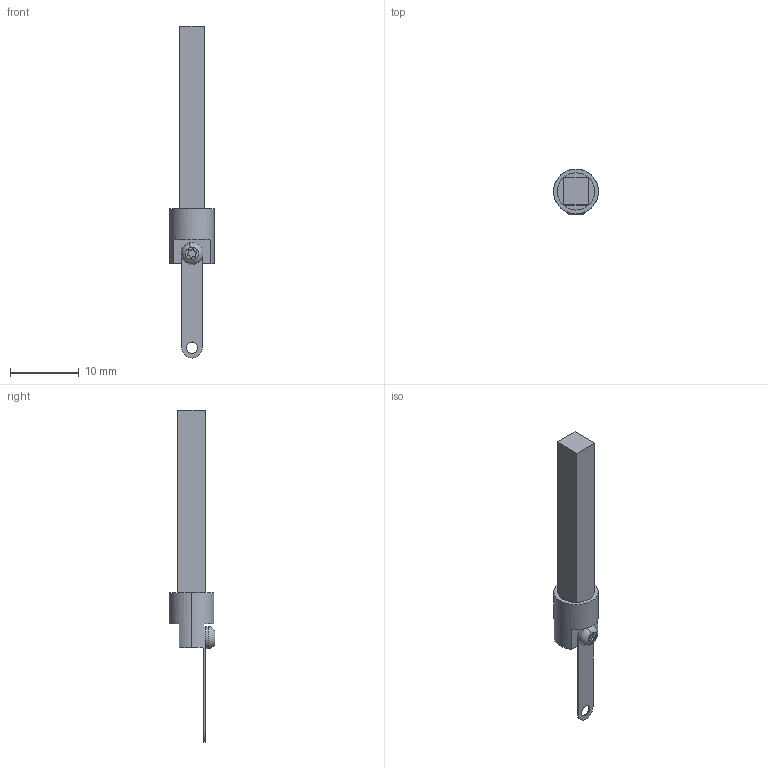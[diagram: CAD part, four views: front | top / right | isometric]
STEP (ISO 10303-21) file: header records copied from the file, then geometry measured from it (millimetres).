
FILE_DESCRIPTION (( 'STEP AP214' ), '1' );
FILE_NAME ('LL06_DriveRod_030M1-PiezoMotor.STEP', '2017-03-14T07:09:33', ( '' ), ( '' ), 'SwSTEP 2.0', 'SolidWorks 2016', '' );
FILE_SCHEMA (( 'AUTOMOTIVE_DESIGN' ));
Length unit declared in the file: millimetre
Products named in the file (1): LL06_DriveRod_030M1-PiezoMotor
Bounding box: 6.5 x 6.65 x 48.15 mm (x, y, z)
Volume: 593.4 mm3; surface area: 922.1 mm2
Topology: 4 solids, 4 shells, 62 faces, 145 edges, 93 vertices
Faces by surface type: cylinder 31, plane 21, cone 8, torus 2
Entity records: 1884 total; most frequent: DIRECTION 347, CARTESIAN_POINT 299, ORIENTED_EDGE 286, EDGE_CURVE 143, AXIS2_PLACEMENT_3D 141, VERTEX_POINT 93, CIRCLE 78, EDGE_LOOP 72
